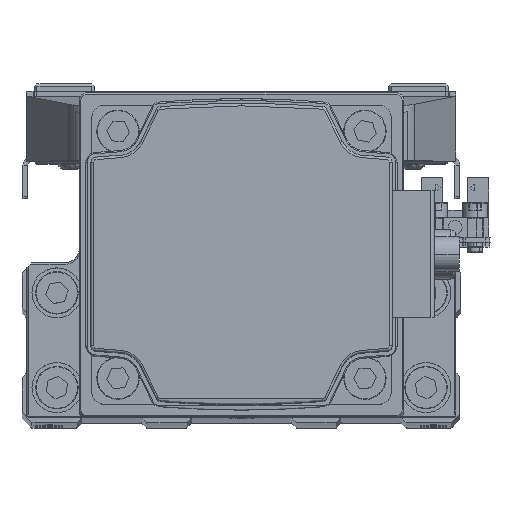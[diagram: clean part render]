
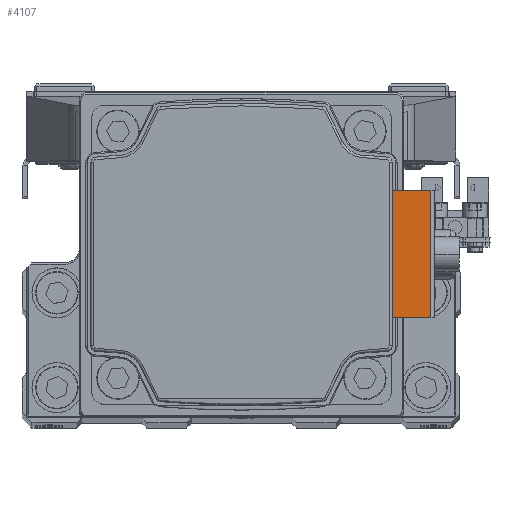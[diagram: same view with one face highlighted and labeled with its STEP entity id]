
A CAD part, top view. The second image highlights one B-rep face of the part: STEP entity #4107.
In plain terms, the highlighted planar face has unit normal (0, 0, 1) as drawn and (0, 0, -1) by its records, which use the part's own axes.
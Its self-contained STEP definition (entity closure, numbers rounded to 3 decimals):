
#151 = CARTESIAN_POINT ( 'NONE',  ( -12.75, 30.2, -88.696 ) ) ;
#554 = LINE ( 'NONE', #15111, #6198 ) ;
#1085 = ORIENTED_EDGE ( 'NONE', *, *, #17497, .T. ) ;
#4107 = ADVANCED_FACE ( 'NONE', ( #40496 ), #7774, .T. ) ;
#4189 = DIRECTION ( 'NONE',  ( -1., 0., 0. ) ) ;
#5346 = CARTESIAN_POINT ( 'NONE',  ( 0., 37.9, -88.696 ) ) ;
#6198 = VECTOR ( 'NONE', #29695, 1000. ) ;
#7774 = PLANE ( 'NONE',  #42606 ) ;
#7945 = DIRECTION ( 'NONE',  ( 0., 1., 0. ) ) ;
#11363 = CARTESIAN_POINT ( 'NONE',  ( -12.75, 37.9, -88.696 ) ) ;
#11895 = LINE ( 'NONE', #26469, #33160 ) ;
#14648 = VERTEX_POINT ( 'NONE', #44930 ) ;
#15111 = CARTESIAN_POINT ( 'NONE',  ( 18.438, 30.2, -88.696 ) ) ;
#15588 = ORIENTED_EDGE ( 'NONE', *, *, #44831, .T. ) ;
#17497 = EDGE_CURVE ( 'NONE', #37900, #43260, #38092, .T. ) ;
#19529 = VECTOR ( 'NONE', #7945, 1000. ) ;
#19907 = DIRECTION ( 'NONE',  ( 1., 0., 0. ) ) ;
#22329 = CARTESIAN_POINT ( 'NONE',  ( 0., 37.9, -88.696 ) ) ;
#23656 = ORIENTED_EDGE ( 'NONE', *, *, #33227, .F. ) ;
#23756 = VECTOR ( 'NONE', #19907, 1000. ) ;
#26097 = LINE ( 'NONE', #40669, #19529 ) ;
#26469 = CARTESIAN_POINT ( 'NONE',  ( -12.75, 37.9, -88.696 ) ) ;
#28735 = VERTEX_POINT ( 'NONE', #151 ) ;
#29695 = DIRECTION ( 'NONE',  ( 1., 0., 0. ) ) ;
#33160 = VECTOR ( 'NONE', #41037, 1000. ) ;
#33227 = EDGE_CURVE ( 'NONE', #14648, #43260, #26097, .T. ) ;
#36456 = ORIENTED_EDGE ( 'NONE', *, *, #40376, .F. ) ;
#36938 = DIRECTION ( 'NONE',  ( 0., 0., -1. ) ) ;
#37900 = VERTEX_POINT ( 'NONE', #11363 ) ;
#38092 = LINE ( 'NONE', #5346, #23756 ) ;
#40376 = EDGE_CURVE ( 'NONE', #28735, #14648, #554, .T. ) ;
#40496 = FACE_OUTER_BOUND ( 'NONE', #42727, .T. ) ;
#40669 = CARTESIAN_POINT ( 'NONE',  ( 12.75, 33.991, -88.696 ) ) ;
#41037 = DIRECTION ( 'NONE',  ( 0., 1., 0. ) ) ;
#42606 = AXIS2_PLACEMENT_3D ( 'NONE', #22329, #36938, #4189 ) ;
#42727 = EDGE_LOOP ( 'NONE', ( #15588, #1085, #23656, #36456 ) ) ;
#43260 = VERTEX_POINT ( 'NONE', #45836 ) ;
#44831 = EDGE_CURVE ( 'NONE', #28735, #37900, #11895, .T. ) ;
#44930 = CARTESIAN_POINT ( 'NONE',  ( 12.75, 30.2, -88.696 ) ) ;
#45836 = CARTESIAN_POINT ( 'NONE',  ( 12.75, 37.9, -88.696 ) ) ;
